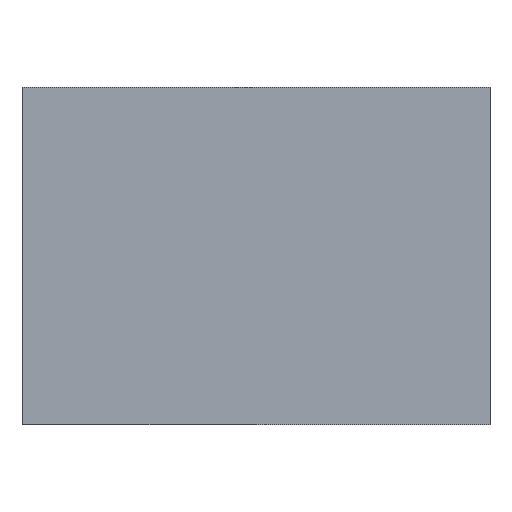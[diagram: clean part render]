
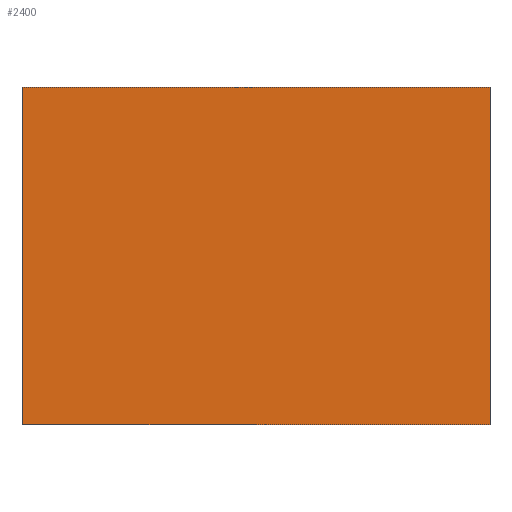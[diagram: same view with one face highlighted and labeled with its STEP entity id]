
A CAD part, top view. The second image highlights one B-rep face of the part: STEP entity #2400.
In plain terms, the highlighted planar face has unit normal (0, 0, 1).
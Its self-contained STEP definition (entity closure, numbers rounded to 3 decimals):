
#136 = CARTESIAN_POINT ( 'NONE',  ( -748., -539., 18. ) ) ;
#141 = LINE ( 'NONE', #1111, #406 ) ;
#254 = ORIENTED_EDGE ( 'NONE', *, *, #1078, .T. ) ;
#335 = LINE ( 'NONE', #1098, #1247 ) ;
#406 = VECTOR ( 'NONE', #1101, 1000. ) ;
#437 = CARTESIAN_POINT ( 'NONE',  ( -748., 539., 18. ) ) ;
#467 = FACE_OUTER_BOUND ( 'NONE', #2159, .T. ) ;
#526 = ORIENTED_EDGE ( 'NONE', *, *, #671, .T. ) ;
#630 = DIRECTION ( 'NONE',  ( 1., 0., 0. ) ) ;
#671 = EDGE_CURVE ( 'NONE', #733, #1723, #335, .T. ) ;
#733 = VERTEX_POINT ( 'NONE', #786 ) ;
#753 = CARTESIAN_POINT ( 'NONE',  ( 748., 539., 18. ) ) ;
#786 = CARTESIAN_POINT ( 'NONE',  ( -748., 539., 18. ) ) ;
#944 = VECTOR ( 'NONE', #1539, 1000. ) ;
#994 = CARTESIAN_POINT ( 'NONE',  ( 748., 539., 18. ) ) ;
#1028 = ORIENTED_EDGE ( 'NONE', *, *, #1220, .T. ) ;
#1078 = EDGE_CURVE ( 'NONE', #1170, #1518, #2280, .T. ) ;
#1098 = CARTESIAN_POINT ( 'NONE',  ( -748., 539., 18. ) ) ;
#1101 = DIRECTION ( 'NONE',  ( 1., 0., 0. ) ) ;
#1111 = CARTESIAN_POINT ( 'NONE',  ( -748., -539., 18. ) ) ;
#1170 = VERTEX_POINT ( 'NONE', #1788 ) ;
#1220 = EDGE_CURVE ( 'NONE', #1518, #733, #1619, .T. ) ;
#1247 = VECTOR ( 'NONE', #1872, 1000. ) ;
#1249 = DIRECTION ( 'NONE',  ( -1., 0., 0. ) ) ;
#1445 = DIRECTION ( 'NONE',  ( 0., 0., 1. ) ) ;
#1518 = VERTEX_POINT ( 'NONE', #994 ) ;
#1539 = DIRECTION ( 'NONE',  ( 0., 1., 0. ) ) ;
#1610 = CARTESIAN_POINT ( 'NONE',  ( 0., 0., 18. ) ) ;
#1619 = LINE ( 'NONE', #437, #1780 ) ;
#1723 = VERTEX_POINT ( 'NONE', #136 ) ;
#1780 = VECTOR ( 'NONE', #1249, 1000. ) ;
#1788 = CARTESIAN_POINT ( 'NONE',  ( 748., -539., 18. ) ) ;
#1872 = DIRECTION ( 'NONE',  ( 0., -1., 0. ) ) ;
#2078 = ORIENTED_EDGE ( 'NONE', *, *, #2458, .T. ) ;
#2159 = EDGE_LOOP ( 'NONE', ( #526, #2078, #254, #1028 ) ) ;
#2187 = PLANE ( 'NONE',  #2465 ) ;
#2280 = LINE ( 'NONE', #753, #944 ) ;
#2400 = ADVANCED_FACE ( 'NONE', ( #467 ), #2187, .T. ) ;
#2458 = EDGE_CURVE ( 'NONE', #1723, #1170, #141, .T. ) ;
#2465 = AXIS2_PLACEMENT_3D ( 'NONE', #1610, #1445, #630 ) ;
